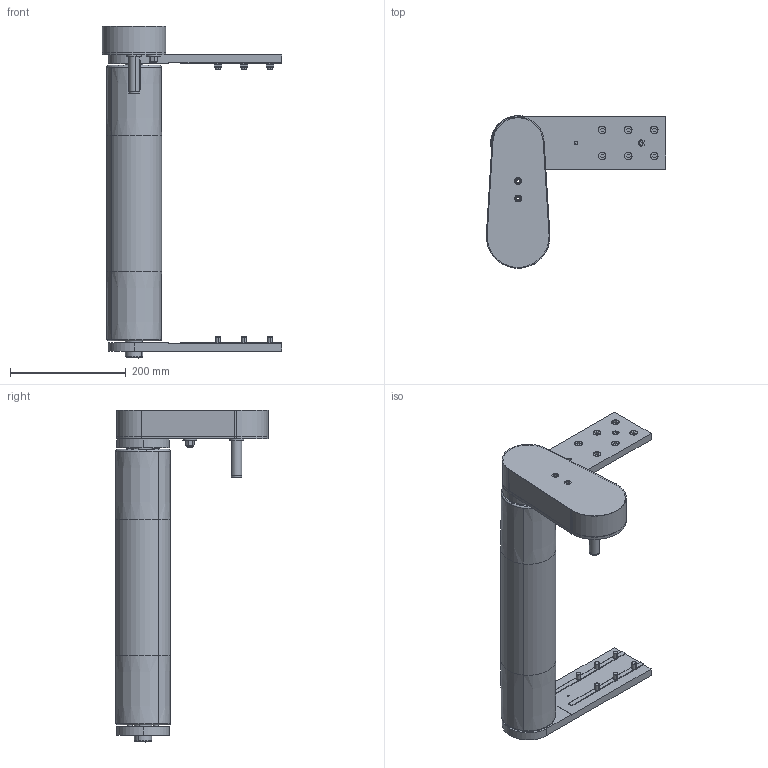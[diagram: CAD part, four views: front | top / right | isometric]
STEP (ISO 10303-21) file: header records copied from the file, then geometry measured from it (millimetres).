
FILE_DESCRIPTION (( 'STEP AP203' ), '1' );
FILE_NAME ('084.095.KTB.44.450.STEP', '2019-07-12T10:23:17', ( 'Localadmin' ), ( 'Microsoft' ), 'SwSTEP 2.0', 'SolidWorks 2018', '' );
FILE_SCHEMA (( 'CONFIG_CONTROL_DESIGN' ));
Length unit declared in the file: millimetre
Products named in the file (25): 084.813.002; 084.810.006; 084.809.003; 084.821.003; 084.821.002; 084.808.003_084.808.003; 084.302.000 DADI ALUSIC 13x13_084.302.004; 084.809.001; 084.810.003; 084.301.000 VITI ALUSIC_084.301.003; 084.813.004; 084.808.002_084.808.002; CHIAVETTE_A 6x6x50 UNI 6604-69; CUSCINETTI A SFERE_608-2RS; 084.816.113_084.816.107<A macchina>; 084.802.034_084.802.034; CHIAVETTE_A 8x7x25 UNI 6604-69; Circlip DIN 471 - 8 x 0.8_Circlip DIN 471 - 8 x 0.8; 084.810.008; 084.802.019_084.802.019; ANELLI ELASTICI PER ESTERNI UNI 7435-75_8 UNI 7435; RONDELLE FASCIA LARGA UNI 6593_8.4x24 UNI 6593; 084.812.003; 084.095.KTB.44.450; DADI ESAGONALI AUTOBLOCCANTI UNI 7473_M8 UNI 7473
Assembly tree (47 placements, depth 3):
  084.095.KTB.44.450
    084.808.003_084.808.003
    084.810.003  x2
    084.808.002_084.808.002
    084.802.034_084.802.034
    084.802.019_084.802.019
    084.812.003
    084.813.002
    084.809.003
    084.821.002  x2
    084.809.001
    084.813.004
    084.816.113_084.816.107<A macchina>
    084.810.006
      084.810.008
      CUSCINETTI A SFERE_608-2RS  x3
      Circlip DIN 471 - 8 x 0.8_Circlip DIN 471 - 8 x 0.8
      RONDELLE FASCIA LARGA UNI 6593_8.4x24 UNI 6593
      DADI ESAGONALI AUTOBLOCCANTI UNI 7473_M8 UNI 7473
    084.821.003
    084.302.000 DADI ALUSIC 13x13_084.302.004  x6
    084.301.000 VITI ALUSIC_084.301.003  x12
    CHIAVETTE_A 6x6x50 UNI 6604-69
    CHIAVETTE_A 8x7x25 UNI 6604-69  x3
    ANELLI ELASTICI PER ESTERNI UNI 7435-75_8 UNI 7435  x2
Bounding box: 310 x 263.87 x 573.5 mm (x, y, z)
Volume: 2110996.3 mm3; surface area: 929216.2 mm2
Topology: 51 solids, 52 shells, 1750 faces, 4554 edges, 2971 vertices
Faces by surface type: plane 801, cylinder 658, cone 124, torus 110, bspline 48, sphere 9
Entity records: 41617 total; most frequent: CARTESIAN_POINT 8061, DIRECTION 6478, ORIENTED_EDGE 6262, EDGE_CURVE 3131, AXIS2_PLACEMENT_3D 2351, VERTEX_POINT 2050, LINE 1776, VECTOR 1776
